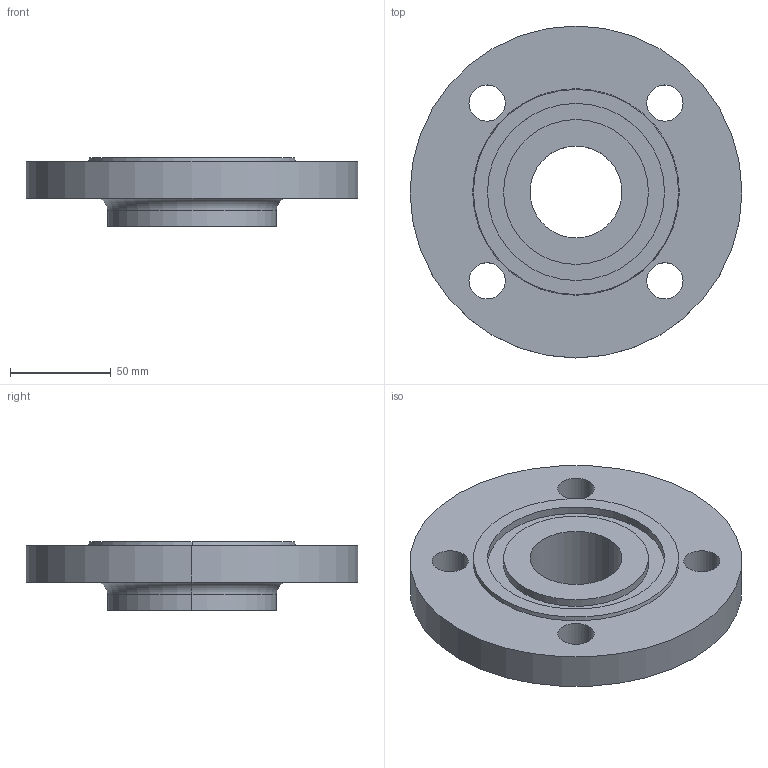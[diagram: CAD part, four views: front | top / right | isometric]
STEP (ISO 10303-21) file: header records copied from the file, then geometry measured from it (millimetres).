
FILE_DESCRIPTION (( 'STEP AP214' ), '1' );
FILE_NAME ('PN40 DN50 Type 13 - Type D Face.STEP', '2018-12-30T04:31:20', ( '' ), ( '' ), 'SwSTEP 2.0', 'SolidWorks 2019', '' );
FILE_SCHEMA (( 'AUTOMOTIVE_DESIGN' ));
Length unit declared in the file: millimetre
Products named in the file (1): PN40 DN50 Type 13 - Type D Face
Bounding box: 165 x 165 x 34 mm (x, y, z)
Volume: 398967.7 mm3; surface area: 61314.3 mm2
Topology: 1 solids, 1 shells, 28 faces, 64 edges, 42 vertices
Faces by surface type: cylinder 18, plane 6, torus 2, cone 2
Entity records: 870 total; most frequent: DIRECTION 166, CARTESIAN_POINT 135, ORIENTED_EDGE 128, AXIS2_PLACEMENT_3D 73, EDGE_CURVE 64, CIRCLE 44, VERTEX_POINT 42, EDGE_LOOP 42
